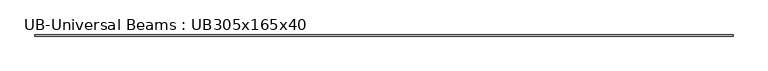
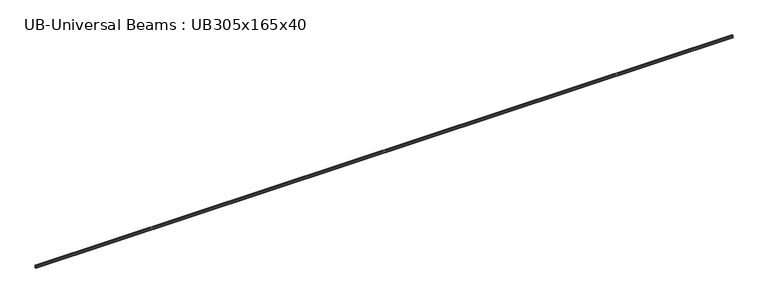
"""IFC4 building model written with IfcOpenShell, lengths in millimetres: beam geometry, UB-Universal Beams : UB305x165x40."""

from ifc_helpers import new_model, si_unit, point, frame, frame_2d, origin, place, context, project, spatial, polyline, circle_curve, trimmed, segment, composite_curve, outline, extrude, source, transform, mapped, element, save


def ub_universal_beams_ub305x165x40_7c90b40a(model_context):
    return source(origin(), model_context, "Body", "SweptSolid", [
        extrude(outline(composite_curve([segment(polyline([(82.5, -141.5), (82.5, -151.7), (-82.5, -151.7), (-82.5, -141.5), (-11.9, -141.5)]), True, "CONTINUOUS"), segment(trimmed(circle_curve(frame_2d((-11.9, -132.6)), 8.9), [point((-11.9, -141.5))], [point((-3.0, -132.6))], True, "CARTESIAN"), True, "CONTINUOUS"), segment(polyline([(-3.0, -132.6), (-3.0, 132.6)]), True, "CONTINUOUS"), segment(trimmed(circle_curve(frame_2d((-11.9, 132.6)), 8.9), [point((-3.0, 132.6))], [point((-11.9, 141.5))], True, "CARTESIAN"), True, "CONTINUOUS"), segment(polyline([(-11.9, 141.5), (-82.5, 141.5), (-82.5, 151.7), (82.5, 151.7), (82.5, 141.5), (11.9, 141.5)]), True, "CONTINUOUS"), segment(trimmed(circle_curve(frame_2d((11.9, 132.6)), 8.9), [point((11.9, 141.5))], [point((3.0, 132.6))], True, "CARTESIAN"), True, "CONTINUOUS"), segment(polyline([(3.0, 132.6), (3.0, -132.6)]), True, "CONTINUOUS"), segment(trimmed(circle_curve(frame_2d((11.9, -132.6)), 8.9), [point((3.0, -132.6))], [point((11.9, -141.5))], True, "CARTESIAN"), True, "CONTINUOUS"), segment(polyline([(11.9, -141.5), (82.5, -141.5)]), True, "CONTINUOUS")], self_intersect=False)), frame((-50082.5, 0.0, 0.0), z_axis=(1.0, 0.0, 0.0), x_axis=(0.0, 1.0, 0.0)), (0.0, 0.0, 1.0), 100165.0),
    ])


if __name__ == "__main__":
    model = new_model("IFC4")
    model_context = context("Model", 3, world=origin())
    ifc_project = project(units=[si_unit("LENGTHUNIT", "METRE", prefix="MILLI")], contexts=[model_context])
    site = spatial("IfcSite", under=ifc_project)
    building = spatial("IfcBuilding", under=site)
    placement = place(None, origin())
    ub_universal_beams_ub305x165x40_shape = ub_universal_beams_ub305x165x40_7c90b40a(model_context)
    element("IfcBeam", 1, ObjectType="UB-Universal Beams : UB305x165x40", at=placement, inside=building, context=model_context, shape_type="MappedRepresentation", body=[
        mapped(ub_universal_beams_ub305x165x40_shape, transform((0.0, 0.0, 0.0), x_axis=(1.0, 0.0, 0.0), y_axis=(0.0, 1.0, 0.0), z_axis=(0.0, 0.0, 1.0))),
    ])
    save(model, "model.ifc")
